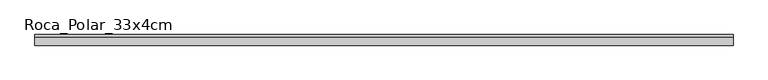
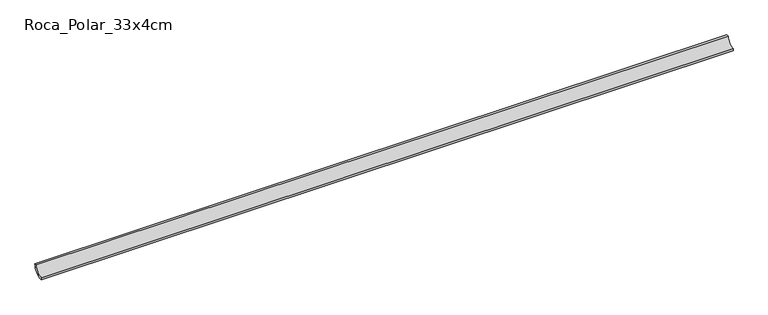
"""IFC4 building model written with IfcOpenShell, lengths in millimetres: proxy geometry, EXAGRES - Piscina Mediacaña : Roca_Polar_33x4cm."""

from ifc_helpers import new_model, si_unit, point, frame, frame_2d, origin, place, context, project, spatial, polyline, circle_curve, trimmed, segment, composite_curve, outline, extrude, source, transform, mapped, element, save


def roca_polar_33x4cm_aab84ab9(model_context):
    return source(origin(), model_context, "Body", "SweptSolid", [
        extrude(outline(composite_curve([segment(polyline([(0.0, 23.9), (6.4, 23.9)]), True, "CONTINUOUS"), segment(trimmed(circle_curve(frame_2d((-23.9, 23.9)), 30.3), [point((6.4, 23.9))], [point((-23.9, -6.4))], False, "CARTESIAN"), True, "CONTINUOUS"), segment(polyline([(-23.9, -6.4), (-23.9, 0.0)]), True, "CONTINUOUS"), segment(trimmed(circle_curve(frame_2d((-23.9, 23.9)), 23.9), [point((-23.9, 0.0))], [point((0.0, 23.9))], True, "CARTESIAN"), True, "CONTINUOUS")], self_intersect=False)), frame((0.0, 0.0, 0.0), z_axis=(1.0, 0.0, 0.0), x_axis=(0.0, 1.0, 0.0)), (0.0, 0.0, 1.0), 1981.1),
    ])


if __name__ == "__main__":
    model = new_model("IFC4")
    model_context = context("Model", 3, world=origin())
    ifc_project = project(units=[si_unit("LENGTHUNIT", "METRE", prefix="MILLI")], contexts=[model_context])
    site = spatial("IfcSite", under=ifc_project)
    building = spatial("IfcBuilding", under=site)
    placement = place(None, origin())
    roca_polar_33x4cm_shape = roca_polar_33x4cm_aab84ab9(model_context)
    element("IfcBuildingElementProxy", 1, Name="EXAGRES - Piscina Mediacaña : Roca_Polar_33x4cm", ObjectType="EXAGRES - Piscina Mediacaña : Roca_Polar_33x4cm", at=placement, inside=building, context=model_context, shape_type="MappedRepresentation", body=[
        mapped(roca_polar_33x4cm_shape, transform((0.0, 0.0, 0.0), x_axis=(1.0, 0.0, 0.0), y_axis=(0.0, 1.0, 0.0), z_axis=(0.0, 0.0, 1.0))),
    ])
    save(model, "model.ifc")
